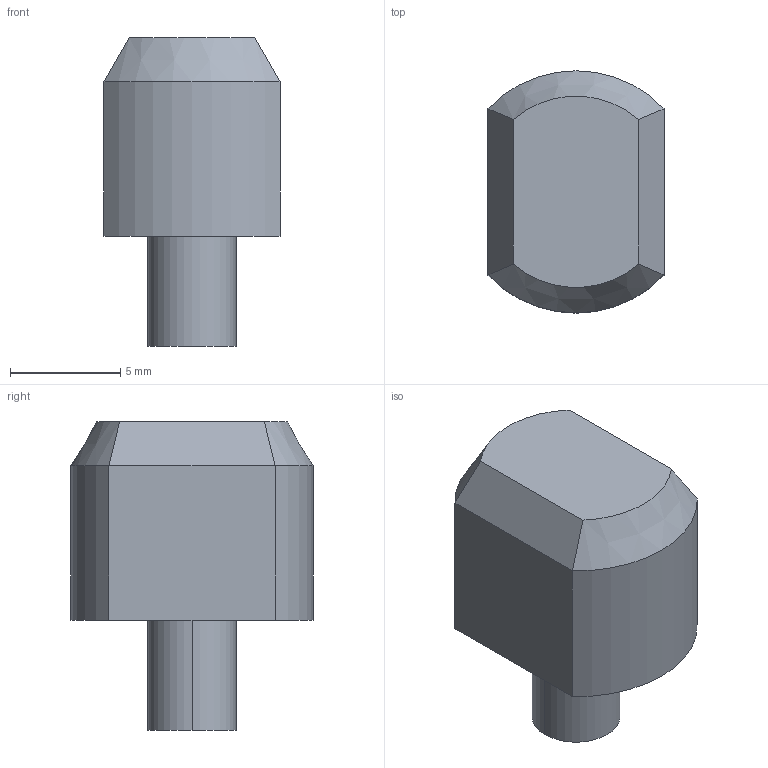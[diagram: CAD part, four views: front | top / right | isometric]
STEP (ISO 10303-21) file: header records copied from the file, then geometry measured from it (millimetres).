
FILE_DESCRIPTION(('CATIA V5 STEP Exchange'),'2;1');
FILE_NAME('D:\Desktop\EGT212.stp','2016-08-25T01:15:25+00:00',('none'),('none'),'CATIA Version 5 Release 19 SP 6 (IN-10)','CATIA V5 STEP AP203','none');
FILE_SCHEMA(('CONFIG_CONTROL_DESIGN'));
Length unit declared in the file: millimetre
Products named in the file (1): EGT_212_ZENTRIERSTIFT
Bounding box: 8 x 11 x 14 mm (x, y, z)
Volume: 742.8 mm3; surface area: 486.7 mm2
Topology: 1 solids, 1 shells, 13 faces, 26 edges, 16 vertices
Faces by surface type: plane 7, cylinder 4, cone 2
Entity records: 369 total; most frequent: CARTESIAN_POINT 67, ORIENTED_EDGE 52, DIRECTION 46, EDGE_CURVE 26, AXIS2_PLACEMENT_3D 23, VERTEX_POINT 16, EDGE_LOOP 14, ADVANCED_FACE 13
